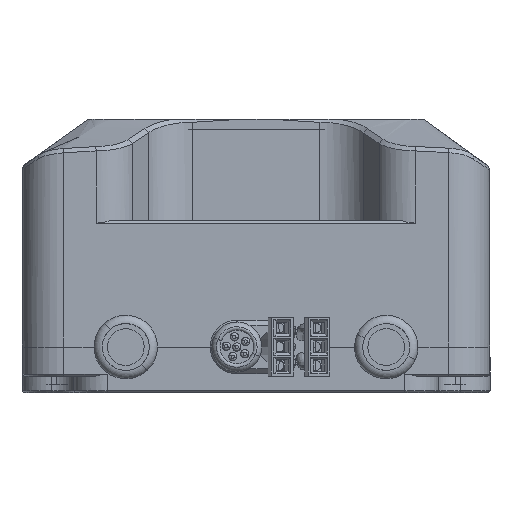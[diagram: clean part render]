
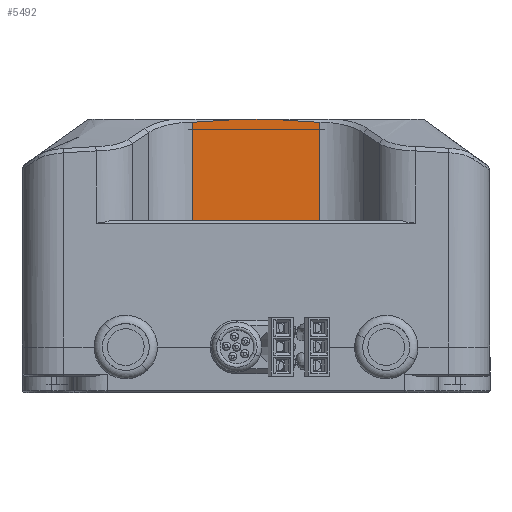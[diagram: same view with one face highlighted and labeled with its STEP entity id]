
A CAD part, left-side view. The second image highlights one B-rep face of the part: STEP entity #5492.
In plain terms, the highlighted planar face has unit normal (-1, 0, 0).
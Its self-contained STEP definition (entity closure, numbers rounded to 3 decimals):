
#15 = VERTEX_POINT ( 'NONE', #44820 ) ;
#1596 = AXIS2_PLACEMENT_3D ( 'NONE', #31351, #23193, #15350 ) ;
#2013 = CARTESIAN_POINT ( 'NONE',  ( -21.237, 63.356, 25.826 ) ) ;
#2403 = CARTESIAN_POINT ( 'NONE',  ( -21.237, 49.931, 25.883 ) ) ;
#4564 = CARTESIAN_POINT ( 'NONE',  ( -21.237, 63.494, 25.818 ) ) ;
#4831 = DIRECTION ( 'NONE',  ( 0., -1., 0. ) ) ;
#5141 = EDGE_CURVE ( 'NONE', #34833, #43591, #39010, .T. ) ;
#5161 = CARTESIAN_POINT ( 'NONE',  ( -21.237, 48.622, 25.802 ) ) ;
#5492 = ADVANCED_FACE ( 'NONE', ( #52466 ), #40020, .F. ) ;
#6077 = CARTESIAN_POINT ( 'NONE',  ( -21.237, 63.69, 25.811 ) ) ;
#7301 = CARTESIAN_POINT ( 'NONE',  ( -21.237, 50.322, 25.908 ) ) ;
#8340 = CARTESIAN_POINT ( 'NONE',  ( -21.237, 60.37, 26.014 ) ) ;
#8502 = VECTOR ( 'NONE', #4831, 1000. ) ;
#8632 = CARTESIAN_POINT ( 'NONE',  ( -21.237, 63.335, 25.827 ) ) ;
#9234 = CARTESIAN_POINT ( 'NONE',  ( -21.237, 48.491, 25.802 ) ) ;
#9343 = VECTOR ( 'NONE', #35302, 1000. ) ;
#9656 = CARTESIAN_POINT ( 'NONE',  ( -21.237, 63.136, 25.84 ) ) ;
#10160 = CARTESIAN_POINT ( 'NONE',  ( -21.237, 63.391, 25.824 ) ) ;
#10622 = CARTESIAN_POINT ( 'NONE',  ( -21.237, 51.37, 25.976 ) ) ;
#11817 = EDGE_CURVE ( 'NONE', #43591, #18733, #14953, .T. ) ;
#11901 = CARTESIAN_POINT ( 'NONE',  ( -21.237, 57.497, 26.2 ) ) ;
#13206 = ORIENTED_EDGE ( 'NONE', *, *, #42644, .T. ) ;
#13998 = CARTESIAN_POINT ( 'NONE',  ( -21.237, 63.35, 25.827 ) ) ;
#14273 = B_SPLINE_CURVE_WITH_KNOTS ( 'NONE', 3,
 ( #11901, #28397, #28945, #24396, #20318, #8340, #53357, #16247, #34281, #49849, #35099, #17778, #26977, #47302, #25190, #46791, #9656, #50837, #38899, #8632, #13998, #2013, #18589, #14504, #10160, #30222, #26192, #41728, #18843, #51128, #21130, #4564, #38390, #34851, #6077, #51400 ),
 .UNSPECIFIED., .F., .F.,
 ( 4, 1, 1, 1, 2, 2, 1, 2, 2, 2, 1, 1, 1, 1, 1, 2, 2, 1, 1, 1, 2, 2, 2, 4 ),
 ( 0., 0.25, 0.375, 0.437, 0.469, 0.5, 0.625, 0.687, 0.75, 0.875, 0.906, 0.922, 0.93, 0.934, 0.936, 0.937, 0.937, 0.945, 0.949, 0.951, 0.952, 0.953, 0.969, 1. ),
 .UNSPECIFIED. ) ;
#14454 = LINE ( 'NONE', #47518, #9343 ) ;
#14504 = CARTESIAN_POINT ( 'NONE',  ( -21.237, 63.361, 25.826 ) ) ;
#14888 = EDGE_CURVE ( 'NONE', #43793, #37681, #14273, .T. ) ;
#14953 = LINE ( 'NONE', #35789, #46787 ) ;
#15221 = CARTESIAN_POINT ( 'NONE',  ( -21.237, 49.8, 25.875 ) ) ;
#15350 = DIRECTION ( 'NONE',  ( 0., 0., -1. ) ) ;
#15469 = CARTESIAN_POINT ( 'NONE',  ( -21.237, 49.407, 25.85 ) ) ;
#16018 = CARTESIAN_POINT ( 'NONE',  ( -21.237, 49.015, 25.825 ) ) ;
#16247 = CARTESIAN_POINT ( 'NONE',  ( -21.237, 60.56, 26.002 ) ) ;
#17778 = CARTESIAN_POINT ( 'NONE',  ( -21.237, 61.932, 25.915 ) ) ;
#18589 = CARTESIAN_POINT ( 'NONE',  ( -21.237, 63.36, 25.826 ) ) ;
#18733 = VERTEX_POINT ( 'NONE', #28511 ) ;
#18843 = CARTESIAN_POINT ( 'NONE',  ( -21.237, 63.459, 25.82 ) ) ;
#19006 = CARTESIAN_POINT ( 'NONE',  ( -21.237, 52.66, 26.06 ) ) ;
#19269 = CARTESIAN_POINT ( 'NONE',  ( -21.237, 48.491, 14. ) ) ;
#20318 = CARTESIAN_POINT ( 'NONE',  ( -21.237, 60.178, 26.027 ) ) ;
#21130 = CARTESIAN_POINT ( 'NONE',  ( -21.237, 63.46, 25.82 ) ) ;
#23193 = DIRECTION ( 'NONE',  ( 1., 0., 0. ) ) ;
#23615 = CARTESIAN_POINT ( 'NONE',  ( -21.237, 49.147, 25.833 ) ) ;
#24056 = EDGE_LOOP ( 'NONE', ( #40355, #32118, #13206, #52320, #47466, #50982 ) ) ;
#24396 = CARTESIAN_POINT ( 'NONE',  ( -21.237, 59.727, 26.055 ) ) ;
#25164 = DIRECTION ( 'NONE',  ( 0., 0., -1. ) ) ;
#25190 = CARTESIAN_POINT ( 'NONE',  ( -21.237, 62.712, 25.866 ) ) ;
#25770 = CARTESIAN_POINT ( 'NONE',  ( -21.237, 57.497, 26.2 ) ) ;
#26192 = CARTESIAN_POINT ( 'NONE',  ( -21.237, 63.448, 25.821 ) ) ;
#26977 = CARTESIAN_POINT ( 'NONE',  ( -21.237, 62.06, 25.907 ) ) ;
#27637 = CARTESIAN_POINT ( 'NONE',  ( -21.237, 49.998, 25.888 ) ) ;
#27924 = CARTESIAN_POINT ( 'NONE',  ( -21.237, 49.603, 25.862 ) ) ;
#28397 = CARTESIAN_POINT ( 'NONE',  ( -21.237, 58.029, 26.165 ) ) ;
#28511 = CARTESIAN_POINT ( 'NONE',  ( -21.237, 48.491, 25.802 ) ) ;
#28945 = CARTESIAN_POINT ( 'NONE',  ( -21.237, 58.82, 26.114 ) ) ;
#29092 = B_SPLINE_CURVE_WITH_KNOTS ( 'NONE', 3,
 ( #9234, #5161, #48542, #16018, #23615, #15469, #27924, #15221, #2403, #27637, #7301, #52581, #47744, #10622, #52085, #31705, #19006, #36604, #44196 ),
 .UNSPECIFIED., .F., .F.,
 ( 4, 2, 2, 1, 2, 2, 1, 1, 2, 2, 4 ),
 ( 0., 0.062, 0.125, 0.187, 0.219, 0.25, 0.375, 0.437, 0.469, 0.5, 1. ),
 .UNSPECIFIED. ) ;
#29181 = LINE ( 'NONE', #45742, #51715 ) ;
#30222 = CARTESIAN_POINT ( 'NONE',  ( -21.237, 63.424, 25.822 ) ) ;
#31165 = EDGE_CURVE ( 'NONE', #18733, #15, #29092, .T. ) ;
#31351 = CARTESIAN_POINT ( 'NONE',  ( -21.237, 44.945, -19.609 ) ) ;
#31705 = CARTESIAN_POINT ( 'NONE',  ( -21.237, 51.571, 25.989 ) ) ;
#32118 = ORIENTED_EDGE ( 'NONE', *, *, #14888, .T. ) ;
#34281 = CARTESIAN_POINT ( 'NONE',  ( -21.237, 60.889, 25.981 ) ) ;
#34833 = VERTEX_POINT ( 'NONE', #44095 ) ;
#34851 = CARTESIAN_POINT ( 'NONE',  ( -21.237, 63.625, 25.813 ) ) ;
#35099 = CARTESIAN_POINT ( 'NONE',  ( -21.237, 61.673, 25.932 ) ) ;
#35302 = DIRECTION ( 'NONE',  ( 0., -1., 0. ) ) ;
#35789 = CARTESIAN_POINT ( 'NONE',  ( -21.237, 48.491, 26.2 ) ) ;
#36026 = DIRECTION ( 'NONE',  ( 0., 0., 1. ) ) ;
#36604 = CARTESIAN_POINT ( 'NONE',  ( -21.237, 53.707, 26.129 ) ) ;
#37681 = VERTEX_POINT ( 'NONE', #37738 ) ;
#37738 = CARTESIAN_POINT ( 'NONE',  ( -21.237, 63.756, 25.811 ) ) ;
#38390 = CARTESIAN_POINT ( 'NONE',  ( -21.237, 63.527, 25.816 ) ) ;
#38899 = CARTESIAN_POINT ( 'NONE',  ( -21.237, 63.307, 25.829 ) ) ;
#39010 = LINE ( 'NONE', #46893, #8502 ) ;
#40020 = PLANE ( 'NONE',  #1596 ) ;
#40355 = ORIENTED_EDGE ( 'NONE', *, *, #49613, .F. ) ;
#41728 = CARTESIAN_POINT ( 'NONE',  ( -21.237, 63.456, 25.82 ) ) ;
#42644 = EDGE_CURVE ( 'NONE', #37681, #34833, #29181, .T. ) ;
#43591 = VERTEX_POINT ( 'NONE', #19269 ) ;
#43793 = VERTEX_POINT ( 'NONE', #25770 ) ;
#44095 = CARTESIAN_POINT ( 'NONE',  ( -21.237, 63.756, 14. ) ) ;
#44196 = CARTESIAN_POINT ( 'NONE',  ( -21.237, 54.777, 26.2 ) ) ;
#44820 = CARTESIAN_POINT ( 'NONE',  ( -21.237, 54.777, 26.2 ) ) ;
#45742 = CARTESIAN_POINT ( 'NONE',  ( -21.237, 63.756, 14. ) ) ;
#46787 = VECTOR ( 'NONE', #36026, 1000. ) ;
#46791 = CARTESIAN_POINT ( 'NONE',  ( -21.237, 63.038, 25.846 ) ) ;
#46893 = CARTESIAN_POINT ( 'NONE',  ( -21.237, 0., 14. ) ) ;
#47302 = CARTESIAN_POINT ( 'NONE',  ( -21.237, 62.452, 25.883 ) ) ;
#47466 = ORIENTED_EDGE ( 'NONE', *, *, #11817, .T. ) ;
#47518 = CARTESIAN_POINT ( 'NONE',  ( -21.237, 0., 26.2 ) ) ;
#47744 = CARTESIAN_POINT ( 'NONE',  ( -21.237, 51.172, 25.963 ) ) ;
#48542 = CARTESIAN_POINT ( 'NONE',  ( -21.237, 48.754, 25.808 ) ) ;
#49613 = EDGE_CURVE ( 'NONE', #43793, #15, #14454, .T. ) ;
#49849 = CARTESIAN_POINT ( 'NONE',  ( -21.237, 61.282, 25.956 ) ) ;
#50837 = CARTESIAN_POINT ( 'NONE',  ( -21.237, 63.25, 25.833 ) ) ;
#50982 = ORIENTED_EDGE ( 'NONE', *, *, #31165, .T. ) ;
#51128 = CARTESIAN_POINT ( 'NONE',  ( -21.237, 63.46, 25.82 ) ) ;
#51400 = CARTESIAN_POINT ( 'NONE',  ( -21.237, 63.756, 25.811 ) ) ;
#51715 = VECTOR ( 'NONE', #25164, 1000. ) ;
#52085 = CARTESIAN_POINT ( 'NONE',  ( -21.237, 51.502, 25.984 ) ) ;
#52320 = ORIENTED_EDGE ( 'NONE', *, *, #5141, .T. ) ;
#52466 = FACE_OUTER_BOUND ( 'NONE', #24056, .T. ) ;
#52581 = CARTESIAN_POINT ( 'NONE',  ( -21.237, 50.713, 25.933 ) ) ;
#53357 = CARTESIAN_POINT ( 'NONE',  ( -21.237, 60.498, 26.006 ) ) ;
